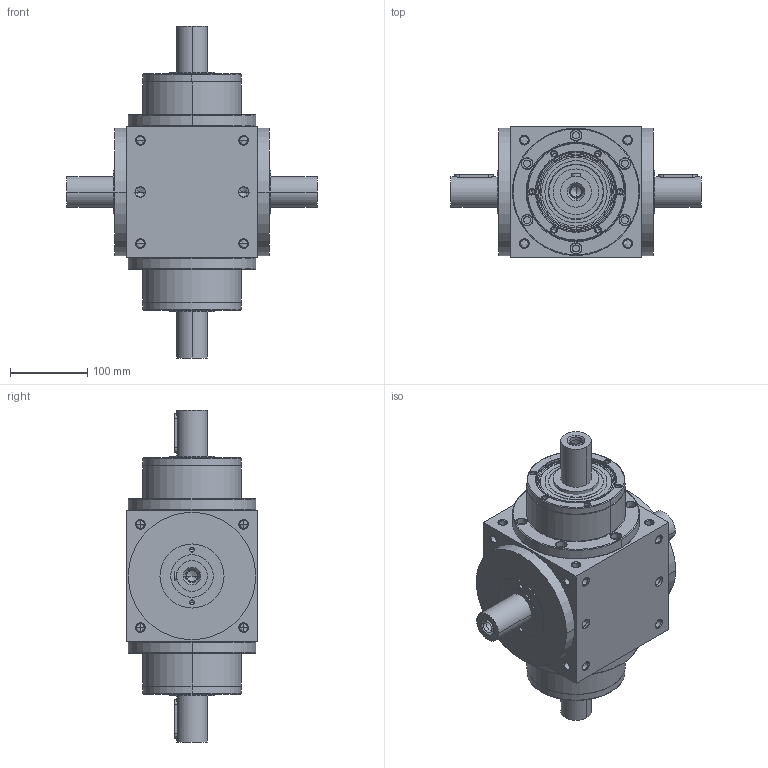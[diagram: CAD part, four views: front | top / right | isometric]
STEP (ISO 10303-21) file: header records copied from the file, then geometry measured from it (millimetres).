
FILE_DESCRIPTION((''),'2;1');
FILE_NAME('AT1704M-1_ASM','2010-02-09T',('d00080'),(''),'PRO/ENGINEER BY PARAMETRIC TECHNOLOGY CORPORATION, 2008170','PRO/ENGINEER BY PARAMETRIC TECHNOLOGY CORPORATION, 2008170','');
FILE_SCHEMA(('CONFIG_CONTROL_DESIGN'));
Length unit declared in the file: millimetre
Products named in the file (4): AT4M-HOUSING-1-7; P1801700001; 22400071007; AT1704M-1_ASM
Assembly tree (5 placements, depth 2):
  AT1704M-1_ASM
    AT4M-HOUSING-1-7
    P1801700001  x2
    22400071007  x2
Bounding box: 324 x 170 x 430 mm (x, y, z)
Volume: 7116079.8 mm3; surface area: 528428.8 mm2
Topology: 7 solids, 47 shells, 868 faces, 2076 edges, 1228 vertices
Faces by surface type: cylinder 380, cone 300, plane 116, torus 72
Entity records: 19062 total; most frequent: CARTESIAN_POINT 4025, DIRECTION 3378, ORIENTED_EDGE 2844, EDGE_CURVE 1490, AXIS2_PLACEMENT_3D 1414, VERTEX_POINT 933, CIRCLE 764, EDGE_LOOP 757
